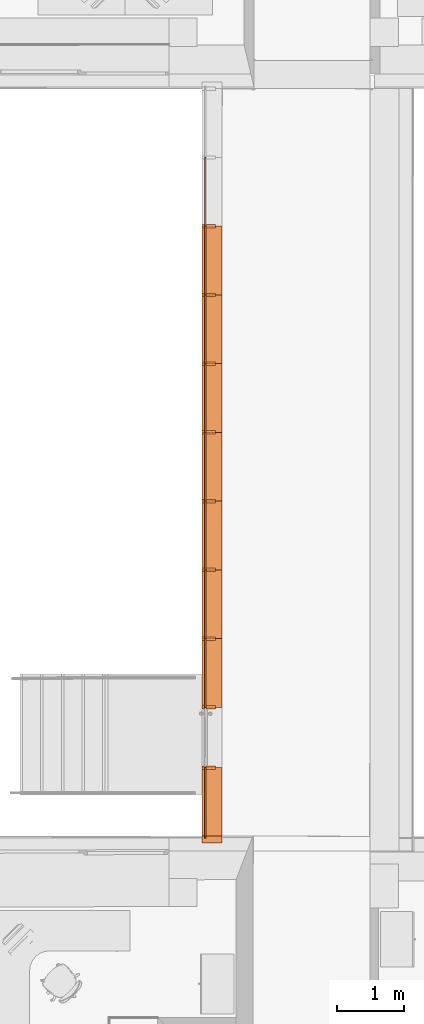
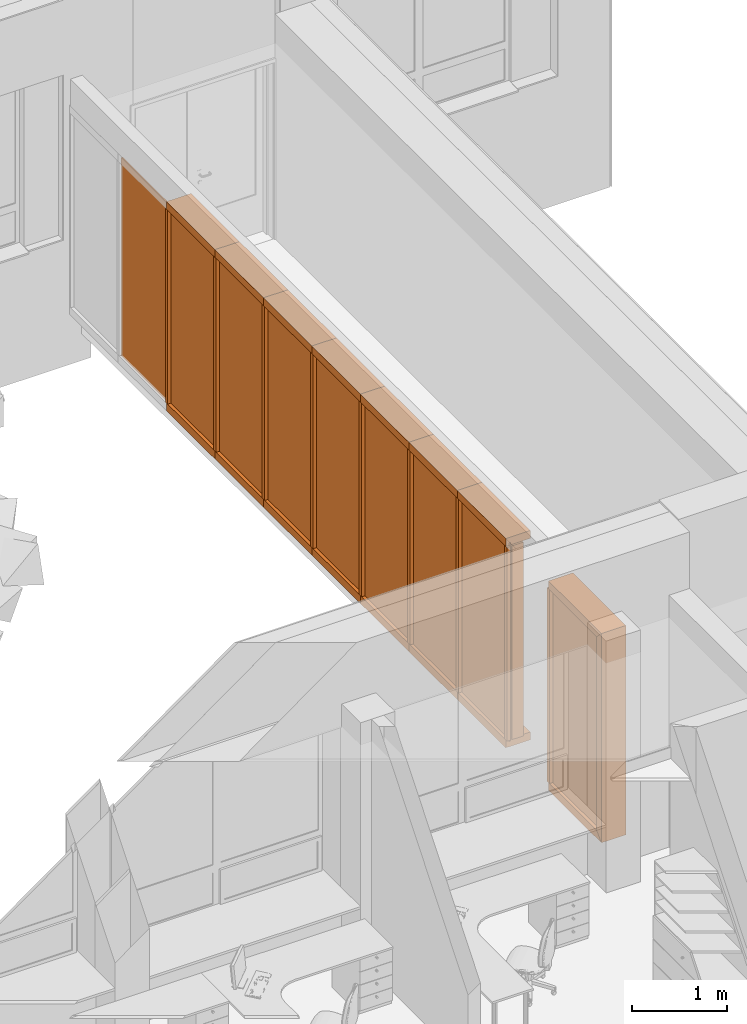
# One storey, part 189 of 194: 35 proxies, 1 element without a shape of its own.
"""IFC2X3 building model written with IfcOpenShell, lengths in millimetres."""

from ifc_helpers import new_model, entity, si_unit, converted_unit, derived_unit, money_unit, direction, frame, origin_with_axes, place, context, subcontext, project, spatial, polyline, outline, extrude, clip, halfspace, material, material_list, type_object, element, aggregate, save


model = new_model("IFC2X3")

# Units and contexts
model_context = context("Model", 3, precision=1e-05, world=origin_with_axes(), true_north=direction((0.0, 1.0)))
body_context = subcontext(model_context, "Body", "Model", "MODEL_VIEW")
ifc_project = project(units=[si_unit("LENGTHUNIT", "METRE", prefix="MILLI"), si_unit("AREAUNIT", "SQUARE_METRE"), si_unit("VOLUMEUNIT", "CUBIC_METRE"), converted_unit("PLANEANGLEUNIT", "DEGREE", entity("IfcPlaneAngleMeasure", 0.0174532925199), si_unit("PLANEANGLEUNIT", "RADIAN"), dimensions=[0, 0, 0, 0, 0, 0, 0]), si_unit("SOLIDANGLEUNIT", "STERADIAN"), money_unit("EUR"), converted_unit("TIMEUNIT", "Year", entity("IfcTimeMeasure", 31556926.0), si_unit("TIMEUNIT", "SECOND"), dimensions=[0, 0, 1, 0, 0, 0, 0]), si_unit("MASSUNIT", "GRAM", prefix="KILO"), si_unit("THERMODYNAMICTEMPERATUREUNIT", "DEGREE_CELSIUS"), si_unit("LUMINOUSINTENSITYUNIT", "LUMEN"), si_unit("ENERGYUNIT", "JOULE", prefix="MEGA"), derived_unit("THERMALCONDUCTANCEUNIT", [(si_unit("POWERUNIT", "WATT"), 1), (si_unit("LENGTHUNIT", "METRE"), -1), (si_unit("THERMODYNAMICTEMPERATUREUNIT", "KELVIN"), -1)]), derived_unit("SPECIFICHEATCAPACITYUNIT", [(si_unit("ENERGYUNIT", "JOULE"), 1), (si_unit("MASSUNIT", "GRAM", prefix="KILO"), -1), (si_unit("THERMODYNAMICTEMPERATUREUNIT", "KELVIN"), -1)]), derived_unit("MASSDENSITYUNIT", [(si_unit("MASSUNIT", "GRAM", prefix="KILO"), 1), (si_unit("VOLUMEUNIT", "CUBIC_METRE"), -1)])], contexts=[model_context])

# Site, building, storey
site_placement = place(None, origin_with_axes())
site = spatial("IfcSite", under=ifc_project, at=site_placement, Name="Site", CompositionType="ELEMENT")
building_placement = place(site_placement, origin_with_axes())
building = spatial("IfcBuilding", under=site, at=building_placement, Name="Building", CompositionType="ELEMENT")
storey_placement = place(building_placement, frame((0.0, 0.0, 3000.0), z_axis=(0.0, 0.0, 1.0), x_axis=(1.0, 0.0, 0.0)))
storey = spatial("IfcBuildingStorey", under=building, at=storey_placement, Name="2 KORRUS", CompositionType="ELEMENT", Elevation=3000.0)

# Curtain wall, proxies
curtain_wall_type = type_object("IfcCurtainWallType", Name="KS-1", PredefinedType="NOTDEFINED")
curtain_wall_placement = place(storey_placement, frame((37274.747914, 58173.7882895, -0.000166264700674), z_axis=(0.0, 0.0, 1.0), x_axis=(1.0, 0.0, 0.0)))
curtain_wall = element("IfcCurtainWall", 1, at=curtain_wall_placement, inside=storey, type_object=curtain_wall_type, Name="KS")
ifc_material_1 = material(Name="Klaas (1)")
building_element_proxy_type_1 = type_object("IfcBuildingElementProxyType", Name="Panel-Main-401", PredefinedType="NOTDEFINED")
proxy_1_placement = place(curtain_wall_placement, frame((0.0, -8200.0, 1250.00017528), z_axis=(0.0, 0.0, 1.0), x_axis=(0.0, -1.0, 0.0)))
proxy_1 = element("IfcBuildingElementProxy", 2, at=proxy_1_placement, type_object=building_element_proxy_type_1, material=ifc_material_1, Name="Klaas (1);  Objekti nimi: Built-in CW Panel", context=body_context, shape_type="SweptSolid", body=[
    extrude(outline(polyline([(-512.500017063, -1280.00017528), (512.499994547, -1280.00017528), (512.499994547, -1250.0001807), (517.5, -1250.0001807), (517.5, 1250.0001807), (512.499994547, 1250.0001807), (512.499994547, 1280.00017528), (-512.500017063, 1280.00017528), (-512.500017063, 1250.0001807), (-517.499984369, 1250.0001807), (-517.499984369, -1250.0001807), (-512.500017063, -1250.0001807), (-512.500017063, -1280.00017528)])), frame((0.0, -9.99999999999, 0.0), z_axis=(0.0, 1.0, 0.0), x_axis=(1.0, 0.0, 0.0)), (0.0, 0.0, 1.0), 20.0),
])
building_element_proxy_type_2 = type_object("IfcBuildingElementProxyType", Name="Panel-Main-402", PredefinedType="NOTDEFINED")
proxy_2_placement = place(curtain_wall_placement, frame((0.0, -7175.0, 1250.00017528), z_axis=(0.0, 0.0, 1.0), x_axis=(0.0, -1.0, 0.0)))
proxy_2 = element("IfcBuildingElementProxy", 3, at=proxy_2_placement, type_object=building_element_proxy_type_2, material=ifc_material_1, Name="Klaas (1);  Objekti nimi: Built-in CW Panel", context=body_context, shape_type="SweptSolid", body=[
    extrude(outline(polyline([(-512.500017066, -1280.00017528), (512.499994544, -1280.00017528), (512.499994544, -1250.0001807), (517.499999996, -1250.0001807), (517.499999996, 1250.0001807), (512.499994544, 1250.0001807), (512.499994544, 1280.00017528), (-512.500017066, 1280.00017528), (-512.500017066, 1250.0001807), (-517.499984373, 1250.0001807), (-517.499984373, -1250.0001807), (-512.500017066, -1250.0001807), (-512.500017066, -1280.00017528)])), frame((0.0, -9.99999999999, 0.0), z_axis=(0.0, 1.0, 0.0), x_axis=(1.0, 0.0, 0.0)), (0.0, 0.0, 1.0), 20.0),
])
building_element_proxy_type_3 = type_object("IfcBuildingElementProxyType", Name="Panel-Main-403", PredefinedType="NOTDEFINED")
proxy_3_placement = place(curtain_wall_placement, frame((0.0, -6150.0, 1250.00017528), z_axis=(0.0, 0.0, 1.0), x_axis=(0.0, -1.0, 0.0)))
proxy_3 = element("IfcBuildingElementProxy", 4, at=proxy_3_placement, type_object=building_element_proxy_type_3, material=ifc_material_1, Name="Klaas (1);  Objekti nimi: Built-in CW Panel", context=body_context, shape_type="SweptSolid", body=[
    extrude(outline(polyline([(-512.500017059, -1280.00017528), (512.499994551, -1280.00017528), (512.499994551, -1250.0001807), (517.500000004, -1250.0001807), (517.500000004, 1250.0001807), (512.499994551, 1250.0001807), (512.499994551, 1280.00017528), (-512.500017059, 1280.00017528), (-512.500017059, 1250.0001807), (-517.499984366, 1250.0001807), (-517.499984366, -1250.0001807), (-512.500017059, -1250.0001807), (-512.500017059, -1280.00017528)])), frame((0.0, -9.99999999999, 0.0), z_axis=(0.0, 1.0, 0.0), x_axis=(1.0, 0.0, 0.0)), (0.0, 0.0, 1.0), 20.0),
])
building_element_proxy_type_4 = type_object("IfcBuildingElementProxyType", Name="Panel-Main-404", PredefinedType="NOTDEFINED")
proxy_4_placement = place(curtain_wall_placement, frame((0.0, -5125.0, 1250.00017528), z_axis=(0.0, 0.0, 1.0), x_axis=(0.0, -1.0, 0.0)))
proxy_4 = element("IfcBuildingElementProxy", 5, at=proxy_4_placement, type_object=building_element_proxy_type_4, material=ifc_material_1, Name="Klaas (1);  Objekti nimi: Built-in CW Panel", context=body_context, shape_type="SweptSolid", body=[
    extrude(outline(polyline([(-512.500017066, -1280.00017528), (512.499994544, -1280.00017528), (512.499994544, -1250.0001807), (517.499999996, -1250.0001807), (517.499999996, 1250.0001807), (512.499994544, 1250.0001807), (512.499994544, 1280.00017528), (-512.500017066, 1280.00017528), (-512.500017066, 1250.0001807), (-517.499984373, 1250.0001807), (-517.499984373, -1250.0001807), (-512.500017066, -1250.0001807), (-512.500017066, -1280.00017528)])), frame((0.0, -9.99999999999, 0.0), z_axis=(0.0, 1.0, 0.0), x_axis=(1.0, 0.0, 0.0)), (0.0, 0.0, 1.0), 20.0),
])
building_element_proxy_type_5 = type_object("IfcBuildingElementProxyType", Name="Panel-Main-405", PredefinedType="NOTDEFINED")
proxy_5_placement = place(curtain_wall_placement, frame((0.0, -4100.0, 1250.00017528), z_axis=(0.0, 0.0, 1.0), x_axis=(0.0, -1.0, 0.0)))
proxy_5 = element("IfcBuildingElementProxy", 6, at=proxy_5_placement, type_object=building_element_proxy_type_5, material=ifc_material_1, Name="Klaas (1);  Objekti nimi: Built-in CW Panel", context=body_context, shape_type="SweptSolid", body=[
    extrude(outline(polyline([(-512.500017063, -1280.00017528), (512.499994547, -1280.00017528), (512.499994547, -1250.0001807), (517.5, -1250.0001807), (517.5, 1250.0001807), (512.499994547, 1250.0001807), (512.499994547, 1280.00017528), (-512.500017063, 1280.00017528), (-512.500017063, 1250.0001807), (-517.499984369, 1250.0001807), (-517.499984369, -1250.0001807), (-512.500017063, -1250.0001807), (-512.500017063, -1280.00017528)])), frame((0.0, -9.99999999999, 0.0), z_axis=(0.0, 1.0, 0.0), x_axis=(1.0, 0.0, 0.0)), (0.0, 0.0, 1.0), 20.0),
])
building_element_proxy_type_6 = type_object("IfcBuildingElementProxyType", Name="Panel-Main-406", PredefinedType="NOTDEFINED")
proxy_6_placement = place(curtain_wall_placement, frame((0.0, -3075.0, 1250.00017528), z_axis=(0.0, 0.0, 1.0), x_axis=(0.0, -1.0, 0.0)))
proxy_6 = element("IfcBuildingElementProxy", 7, at=proxy_6_placement, type_object=building_element_proxy_type_6, material=ifc_material_1, Name="Klaas (1);  Objekti nimi: Built-in CW Panel", context=body_context, shape_type="SweptSolid", body=[
    extrude(outline(polyline([(-512.500017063, -1280.00017528), (512.499994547, -1280.00017528), (512.499994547, -1250.0001807), (517.5, -1250.0001807), (517.5, 1250.0001807), (512.499994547, 1250.0001807), (512.499994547, 1280.00017528), (-512.500017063, 1280.00017528), (-512.500017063, 1250.0001807), (-517.499984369, 1250.0001807), (-517.499984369, -1250.0001807), (-512.500017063, -1250.0001807), (-512.500017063, -1280.00017528)])), frame((0.0, -9.99999999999, 0.0), z_axis=(0.0, 1.0, 0.0), x_axis=(1.0, 0.0, 0.0)), (0.0, 0.0, 1.0), 20.0),
])
building_element_proxy_type_7 = type_object("IfcBuildingElementProxyType", Name="Panel-Main-407", PredefinedType="NOTDEFINED")
proxy_7_placement = place(curtain_wall_placement, frame((0.0, -2050.0, 1250.00017528), z_axis=(0.0, 0.0, 1.0), x_axis=(0.0, -1.0, 0.0)))
proxy_7 = element("IfcBuildingElementProxy", 8, at=proxy_7_placement, type_object=building_element_proxy_type_7, material=ifc_material_1, Name="Klaas (1);  Objekti nimi: Built-in CW Panel", context=body_context, shape_type="SweptSolid", body=[
    extrude(outline(polyline([(-512.500017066, -1280.00017528), (512.499994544, -1280.00017528), (512.499994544, -1250.0001807), (517.499999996, -1250.0001807), (517.499999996, 1250.0001807), (512.499994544, 1250.0001807), (512.499994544, 1280.00017528), (-512.500017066, 1280.00017528), (-512.500017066, 1250.0001807), (-517.499984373, 1250.0001807), (-517.499984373, -1250.0001807), (-512.500017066, -1250.0001807), (-512.500017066, -1280.00017528)])), frame((0.0, -9.99999999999, 0.0), z_axis=(0.0, 1.0, 0.0), x_axis=(1.0, 0.0, 0.0)), (0.0, 0.0, 1.0), 20.0),
])
building_element_proxy_type_8 = type_object("IfcBuildingElementProxyType", Name="Panel-Main-408", PredefinedType="NOTDEFINED")
proxy_8_placement = place(curtain_wall_placement, frame((0.0, -1025.0, 1250.00017528), z_axis=(0.0, 0.0, 1.0), x_axis=(0.0, -1.0, 0.0)))
proxy_8 = element("IfcBuildingElementProxy", 9, at=proxy_8_placement, type_object=building_element_proxy_type_8, material=ifc_material_1, Name="Klaas (1);  Objekti nimi: Built-in CW Panel", context=body_context, shape_type="SweptSolid", body=[
    extrude(outline(polyline([(-512.500017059, -1280.00017528), (512.499994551, -1280.00017528), (512.499994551, -1250.0001807), (517.500000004, -1250.0001807), (517.500000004, 1250.0001807), (512.499994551, 1250.0001807), (512.499994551, 1280.00017528), (-512.500017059, 1280.00017528), (-512.500017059, 1250.0001807), (-517.499984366, 1250.0001807), (-517.499984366, -1250.0001807), (-512.500017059, -1250.0001807), (-512.500017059, -1280.00017528)])), frame((0.0, -9.99999999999, 0.0), z_axis=(0.0, 1.0, 0.0), x_axis=(1.0, 0.0, 0.0)), (0.0, 0.0, 1.0), 20.0),
])
building_element_proxy_type_9 = type_object("IfcBuildingElementProxyType", Name="Panel-Main-409", PredefinedType="NOTDEFINED")
proxy_9_placement = place(curtain_wall_placement, frame((0.0, -10122.9794885, 1250.00017528), z_axis=(0.0, 0.0, 1.0), x_axis=(0.0, -1.0, 0.0)))
proxy_9 = element("IfcBuildingElementProxy", 10, at=proxy_9_placement, type_object=building_element_proxy_type_9, material=ifc_material_1, Name="Klaas (1);  Objekti nimi: Built-in CW Panel", context=body_context, shape_type="SweptSolid", body=[
    extrude(outline(polyline([(-510.479451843, -1280.00017528), (510.479493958, -1280.00017528), (510.479493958, -1250.0001807), (540.479488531, -1250.0001807), (540.479488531, 1250.0001807), (510.479493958, 1250.0001807), (510.479493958, 1280.00017528), (-510.479489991, 1280.00017528), (-510.479451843, 1250.0001807), (-515.479457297, 1250.0001807), (-515.479457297, -1250.0001807), (-510.479451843, -1250.0001807), (-510.479451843, -1280.00017528)])), frame((0.0, -9.99999999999, 0.0), z_axis=(0.0, 1.0, 0.0), x_axis=(1.0, 0.0, 0.0)), (0.0, 0.0, 1.0), 20.0),
])
ifc_material_2 = material(Name="Alumiinium (1)")
ifc_material_list = material_list([ifc_material_2, ifc_material_2])
building_element_proxy_type_10 = type_object("IfcBuildingElementProxyType", Name="Frame-Mll-552", PredefinedType="NOTDEFINED")
proxy_10_placement = place(curtain_wall_placement, frame((0.0, -9612.5, 0.0), z_axis=(0.0, 0.0, 1.0), x_axis=(0.0, -1.0, 0.0)))
proxy_10 = element("IfcBuildingElementProxy", 11, at=proxy_10_placement, type_object=building_element_proxy_type_10, material=ifc_material_list, Name="Alumiinium (1);  Objekti nimi: Frame 22", context=body_context, shape_type="SweptSolid", body=[
    extrude(outline(polyline([(9.99999999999, -24.9999999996), (150.0, -24.9999999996), (150.0, 24.9999999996), (9.99999999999, 24.9999999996), (9.99999999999, -24.9999999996)])), frame((0.0, 0.0, 0.0), z_axis=(0.0, 0.0, 1.0), x_axis=(0.0, 1.0, 0.0)), (0.0, 0.0, 1.0), 2500.00035055),
    extrude(outline(polyline([(-9.99999999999, 24.9999999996), (-50.0, 24.9999999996), (-50.0, -24.9999999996), (-9.99999999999, -24.9999999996), (-9.99999999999, 24.9999999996)])), frame((0.0, 0.0, 0.0), z_axis=(0.0, 0.0, 1.0), x_axis=(0.0, 1.0, 0.0)), (0.0, 0.0, 1.0), 2500.00035055),
])
building_element_proxy_type_11 = type_object("IfcBuildingElementProxyType", Name="Frame-Bnd-282", PredefinedType="NOTDEFINED")
proxy_11_placement = place(curtain_wall_placement, frame((0.0, -8712.5, 0.0), z_axis=(0.0, 1.0, 0.0), x_axis=(0.0, 0.0, 1.0)))
proxy_11 = element("IfcBuildingElementProxy", 12, at=proxy_11_placement, type_object=building_element_proxy_type_11, material=ifc_material_2, Name="Alumiinium (1);  Objekti nimi: Built-in Frame", context=body_context, shape_type="SweptSolid", body=[
    extrude(outline(polyline([(9.99999999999, 30.0), (9.99999999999, 0.0), (250.0, 0.0), (250.0, 100.0), (-50.0, 100.0), (-50.0, 0.0), (-9.99999999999, 0.0), (-9.99999999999, 30.0), (9.99999999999, 30.0)])), frame((0.0, 0.0, 0.0), z_axis=(0.0, 0.0, 1.0), x_axis=(0.0, 1.0, 0.0)), (0.0, 0.0, 1.0), 1025.0),
])
building_element_proxy_type_12 = type_object("IfcBuildingElementProxyType", Name="Frame-Mll-553", PredefinedType="NOTDEFINED")
proxy_12_placement = place(curtain_wall_placement, frame((0.0, -8712.5, 0.0), z_axis=(0.0, 0.0, 1.0), x_axis=(0.0, -1.0, 0.0)))
proxy_12 = element("IfcBuildingElementProxy", 13, at=proxy_12_placement, type_object=building_element_proxy_type_12, material=ifc_material_list, Name="Alumiinium (1);  Objekti nimi: Frame 22", context=body_context, shape_type="SweptSolid", body=[
    extrude(outline(polyline([(9.99999999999, -24.9999999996), (150.0, -24.9999999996), (150.0, 24.9999999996), (9.99999999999, 24.9999999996), (9.99999999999, -24.9999999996)])), frame((0.0, 0.0, 0.0), z_axis=(0.0, 0.0, 1.0), x_axis=(0.0, 1.0, 0.0)), (0.0, 0.0, 1.0), 2500.00035055),
    extrude(outline(polyline([(-9.99999999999, 24.9999999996), (-50.0, 24.9999999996), (-50.0, -24.9999999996), (-9.99999999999, -24.9999999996), (-9.99999999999, 24.9999999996)])), frame((0.0, 0.0, 0.0), z_axis=(0.0, 0.0, 1.0), x_axis=(0.0, 1.0, 0.0)), (0.0, 0.0, 1.0), 2500.00035055),
])
building_element_proxy_type_13 = type_object("IfcBuildingElementProxyType", Name="Frame-Bnd-283", PredefinedType="NOTDEFINED")
proxy_13_placement = place(curtain_wall_placement, frame((0.0, -7687.5, 0.0), z_axis=(0.0, 1.0, 0.0), x_axis=(0.0, 0.0, 1.0)))
proxy_13 = element("IfcBuildingElementProxy", 14, at=proxy_13_placement, type_object=building_element_proxy_type_13, material=ifc_material_2, Name="Alumiinium (1);  Objekti nimi: Built-in Frame", context=body_context, shape_type="SweptSolid", body=[
    extrude(outline(polyline([(9.99999999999, 30.0), (9.99999999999, 0.0), (250.0, 0.0), (250.0, 100.0), (-50.0, 100.0), (-50.0, 0.0), (-9.99999999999, 0.0), (-9.99999999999, 30.0), (9.99999999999, 30.0)])), frame((0.0, 0.0, 0.0), z_axis=(0.0, 0.0, 1.0), x_axis=(0.0, 1.0, 0.0)), (0.0, 0.0, 1.0), 1025.0),
])
building_element_proxy_type_14 = type_object("IfcBuildingElementProxyType", Name="Frame-Mll-554", PredefinedType="NOTDEFINED")
proxy_14_placement = place(curtain_wall_placement, frame((0.0, -7687.5, 0.0), z_axis=(0.0, 0.0, 1.0), x_axis=(0.0, -1.0, 0.0)))
proxy_14 = element("IfcBuildingElementProxy", 15, at=proxy_14_placement, type_object=building_element_proxy_type_14, material=ifc_material_list, Name="Alumiinium (1);  Objekti nimi: Frame 22", context=body_context, shape_type="SweptSolid", body=[
    extrude(outline(polyline([(9.99999999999, -24.9999999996), (150.0, -24.9999999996), (150.0, 24.9999999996), (9.99999999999, 24.9999999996), (9.99999999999, -24.9999999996)])), frame((0.0, 0.0, 0.0), z_axis=(0.0, 0.0, 1.0), x_axis=(0.0, 1.0, 0.0)), (0.0, 0.0, 1.0), 2500.00035055),
    extrude(outline(polyline([(-9.99999999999, 24.9999999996), (-50.0, 24.9999999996), (-50.0, -24.9999999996), (-9.99999999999, -24.9999999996), (-9.99999999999, 24.9999999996)])), frame((0.0, 0.0, 0.0), z_axis=(0.0, 0.0, 1.0), x_axis=(0.0, 1.0, 0.0)), (0.0, 0.0, 1.0), 2500.00035055),
])
building_element_proxy_type_15 = type_object("IfcBuildingElementProxyType", Name="Frame-Bnd-284", PredefinedType="NOTDEFINED")
proxy_15_placement = place(curtain_wall_placement, frame((0.0, -6662.50000001, 0.0), z_axis=(0.0, 1.0, 0.0), x_axis=(0.0, 0.0, 1.0)))
proxy_15 = element("IfcBuildingElementProxy", 16, at=proxy_15_placement, type_object=building_element_proxy_type_15, material=ifc_material_2, Name="Alumiinium (1);  Objekti nimi: Built-in Frame", context=body_context, shape_type="SweptSolid", body=[
    extrude(outline(polyline([(9.99999999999, 30.0), (9.99999999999, 0.0), (250.0, 0.0), (250.0, 100.0), (-50.0, 100.0), (-50.0, 0.0), (-9.99999999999, 0.0), (-9.99999999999, 30.0), (9.99999999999, 30.0)])), frame((0.0, 0.0, 0.0), z_axis=(0.0, 0.0, 1.0), x_axis=(0.0, 1.0, 0.0)), (0.0, 0.0, 1.0), 1025.00000001),
])
building_element_proxy_type_16 = type_object("IfcBuildingElementProxyType", Name="Frame-Mll-555", PredefinedType="NOTDEFINED")
proxy_16_placement = place(curtain_wall_placement, frame((0.0, -6662.50000001, 0.0), z_axis=(0.0, 0.0, 1.0), x_axis=(0.0, -1.0, 0.0)))
proxy_16 = element("IfcBuildingElementProxy", 17, at=proxy_16_placement, type_object=building_element_proxy_type_16, material=ifc_material_list, Name="Alumiinium (1);  Objekti nimi: Frame 22", context=body_context, shape_type="SweptSolid", body=[
    extrude(outline(polyline([(9.99999999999, -24.9999999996), (150.0, -24.9999999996), (150.0, 24.9999999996), (9.99999999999, 24.9999999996), (9.99999999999, -24.9999999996)])), frame((0.0, 0.0, 0.0), z_axis=(0.0, 0.0, 1.0), x_axis=(0.0, 1.0, 0.0)), (0.0, 0.0, 1.0), 2500.00035055),
    extrude(outline(polyline([(-9.99999999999, 24.9999999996), (-50.0, 24.9999999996), (-50.0, -24.9999999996), (-9.99999999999, -24.9999999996), (-9.99999999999, 24.9999999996)])), frame((0.0, 0.0, 0.0), z_axis=(0.0, 0.0, 1.0), x_axis=(0.0, 1.0, 0.0)), (0.0, 0.0, 1.0), 2500.00035055),
])
building_element_proxy_type_17 = type_object("IfcBuildingElementProxyType", Name="Frame-Bnd-285", PredefinedType="NOTDEFINED")
proxy_17_placement = place(curtain_wall_placement, frame((0.0, -5637.5, 0.0), z_axis=(0.0, 1.0, 0.0), x_axis=(0.0, 0.0, 1.0)))
proxy_17 = element("IfcBuildingElementProxy", 18, at=proxy_17_placement, type_object=building_element_proxy_type_17, material=ifc_material_2, Name="Alumiinium (1);  Objekti nimi: Built-in Frame", context=body_context, shape_type="SweptSolid", body=[
    extrude(outline(polyline([(9.99999999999, 30.0), (9.99999999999, 0.0), (250.0, 0.0), (250.0, 100.0), (-50.0, 100.0), (-50.0, 0.0), (-9.99999999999, 0.0), (-9.99999999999, 30.0), (9.99999999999, 30.0)])), frame((0.0, 0.0, 0.0), z_axis=(0.0, 0.0, 1.0), x_axis=(0.0, 1.0, 0.0)), (0.0, 0.0, 1.0), 1025.0),
])
building_element_proxy_type_18 = type_object("IfcBuildingElementProxyType", Name="Frame-Mll-556", PredefinedType="NOTDEFINED")
proxy_18_placement = place(curtain_wall_placement, frame((0.0, -5637.5, 0.0), z_axis=(0.0, 0.0, 1.0), x_axis=(0.0, -1.0, 0.0)))
proxy_18 = element("IfcBuildingElementProxy", 19, at=proxy_18_placement, type_object=building_element_proxy_type_18, material=ifc_material_list, Name="Alumiinium (1);  Objekti nimi: Frame 22", context=body_context, shape_type="SweptSolid", body=[
    extrude(outline(polyline([(9.99999999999, -24.9999999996), (150.0, -24.9999999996), (150.0, 24.9999999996), (9.99999999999, 24.9999999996), (9.99999999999, -24.9999999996)])), frame((0.0, 0.0, 0.0), z_axis=(0.0, 0.0, 1.0), x_axis=(0.0, 1.0, 0.0)), (0.0, 0.0, 1.0), 2500.00035055),
    extrude(outline(polyline([(-9.99999999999, 24.9999999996), (-50.0, 24.9999999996), (-50.0, -24.9999999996), (-9.99999999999, -24.9999999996), (-9.99999999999, 24.9999999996)])), frame((0.0, 0.0, 0.0), z_axis=(0.0, 0.0, 1.0), x_axis=(0.0, 1.0, 0.0)), (0.0, 0.0, 1.0), 2500.00035055),
])
building_element_proxy_type_19 = type_object("IfcBuildingElementProxyType", Name="Frame-Bnd-286", PredefinedType="NOTDEFINED")
proxy_19_placement = place(curtain_wall_placement, frame((0.0, -4612.5, 0.0), z_axis=(0.0, 1.0, 0.0), x_axis=(0.0, 0.0, 1.0)))
proxy_19 = element("IfcBuildingElementProxy", 20, at=proxy_19_placement, type_object=building_element_proxy_type_19, material=ifc_material_2, Name="Alumiinium (1);  Objekti nimi: Built-in Frame", context=body_context, shape_type="SweptSolid", body=[
    extrude(outline(polyline([(9.99999999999, 30.0), (9.99999999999, 0.0), (250.0, 0.0), (250.0, 100.0), (-50.0, 100.0), (-50.0, 0.0), (-9.99999999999, 0.0), (-9.99999999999, 30.0), (9.99999999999, 30.0)])), frame((0.0, 0.0, 0.0), z_axis=(0.0, 0.0, 1.0), x_axis=(0.0, 1.0, 0.0)), (0.0, 0.0, 1.0), 1025.0),
])
building_element_proxy_type_20 = type_object("IfcBuildingElementProxyType", Name="Frame-Mll-557", PredefinedType="NOTDEFINED")
proxy_20_placement = place(curtain_wall_placement, frame((0.0, -4612.5, 0.0), z_axis=(0.0, 0.0, 1.0), x_axis=(0.0, -1.0, 0.0)))
proxy_20 = element("IfcBuildingElementProxy", 21, at=proxy_20_placement, type_object=building_element_proxy_type_20, material=ifc_material_list, Name="Alumiinium (1);  Objekti nimi: Frame 22", context=body_context, shape_type="SweptSolid", body=[
    extrude(outline(polyline([(9.99999999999, -24.9999999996), (150.0, -24.9999999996), (150.0, 24.9999999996), (9.99999999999, 24.9999999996), (9.99999999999, -24.9999999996)])), frame((0.0, 0.0, 0.0), z_axis=(0.0, 0.0, 1.0), x_axis=(0.0, 1.0, 0.0)), (0.0, 0.0, 1.0), 2500.00035055),
    extrude(outline(polyline([(-9.99999999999, 24.9999999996), (-50.0, 24.9999999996), (-50.0, -24.9999999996), (-9.99999999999, -24.9999999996), (-9.99999999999, 24.9999999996)])), frame((0.0, 0.0, 0.0), z_axis=(0.0, 0.0, 1.0), x_axis=(0.0, 1.0, 0.0)), (0.0, 0.0, 1.0), 2500.00035055),
])
building_element_proxy_type_21 = type_object("IfcBuildingElementProxyType", Name="Frame-Bnd-287", PredefinedType="NOTDEFINED")
proxy_21_placement = place(curtain_wall_placement, frame((0.0, -3587.5, 0.0), z_axis=(0.0, 1.0, 0.0), x_axis=(0.0, 0.0, 1.0)))
proxy_21 = element("IfcBuildingElementProxy", 22, at=proxy_21_placement, type_object=building_element_proxy_type_21, material=ifc_material_2, Name="Alumiinium (1);  Objekti nimi: Built-in Frame", context=body_context, shape_type="SweptSolid", body=[
    extrude(outline(polyline([(9.99999999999, 30.0), (9.99999999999, 0.0), (250.0, 0.0), (250.0, 100.0), (-50.0, 100.0), (-50.0, 0.0), (-9.99999999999, 0.0), (-9.99999999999, 30.0), (9.99999999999, 30.0)])), frame((0.0, 0.0, 0.0), z_axis=(0.0, 0.0, 1.0), x_axis=(0.0, 1.0, 0.0)), (0.0, 0.0, 1.0), 1025.0),
])
building_element_proxy_type_22 = type_object("IfcBuildingElementProxyType", Name="Frame-Mll-558", PredefinedType="NOTDEFINED")
proxy_22_placement = place(curtain_wall_placement, frame((0.0, -3587.5, 0.0), z_axis=(0.0, 0.0, 1.0), x_axis=(0.0, -1.0, 0.0)))
proxy_22 = element("IfcBuildingElementProxy", 23, at=proxy_22_placement, type_object=building_element_proxy_type_22, material=ifc_material_list, Name="Alumiinium (1);  Objekti nimi: Frame 22", context=body_context, shape_type="SweptSolid", body=[
    extrude(outline(polyline([(9.99999999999, -24.9999999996), (150.0, -24.9999999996), (150.0, 24.9999999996), (9.99999999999, 24.9999999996), (9.99999999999, -24.9999999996)])), frame((0.0, 0.0, 0.0), z_axis=(0.0, 0.0, 1.0), x_axis=(0.0, 1.0, 0.0)), (0.0, 0.0, 1.0), 2500.00035055),
    extrude(outline(polyline([(-9.99999999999, 24.9999999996), (-50.0, 24.9999999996), (-50.0, -24.9999999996), (-9.99999999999, -24.9999999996), (-9.99999999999, 24.9999999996)])), frame((0.0, 0.0, 0.0), z_axis=(0.0, 0.0, 1.0), x_axis=(0.0, 1.0, 0.0)), (0.0, 0.0, 1.0), 2500.00035055),
])
building_element_proxy_type_23 = type_object("IfcBuildingElementProxyType", Name="Frame-Bnd-288", PredefinedType="NOTDEFINED")
proxy_23_placement = place(curtain_wall_placement, frame((0.0, -2562.5, 0.0), z_axis=(0.0, 1.0, 0.0), x_axis=(0.0, 0.0, 1.0)))
proxy_23 = element("IfcBuildingElementProxy", 24, at=proxy_23_placement, type_object=building_element_proxy_type_23, material=ifc_material_2, Name="Alumiinium (1);  Objekti nimi: Built-in Frame", context=body_context, shape_type="SweptSolid", body=[
    extrude(outline(polyline([(9.99999999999, 30.0), (9.99999999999, 0.0), (250.0, 0.0), (250.0, 100.0), (-50.0, 100.0), (-50.0, 0.0), (-9.99999999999, 0.0), (-9.99999999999, 30.0), (9.99999999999, 30.0)])), frame((0.0, 0.0, 0.0), z_axis=(0.0, 0.0, 1.0), x_axis=(0.0, 1.0, 0.0)), (0.0, 0.0, 1.0), 1025.0),
])
building_element_proxy_type_24 = type_object("IfcBuildingElementProxyType", Name="Frame-Mll-559", PredefinedType="NOTDEFINED")
proxy_24_placement = place(curtain_wall_placement, frame((0.0, -2562.5, 0.0), z_axis=(0.0, 0.0, 1.0), x_axis=(0.0, -1.0, 0.0)))
proxy_24 = element("IfcBuildingElementProxy", 25, at=proxy_24_placement, type_object=building_element_proxy_type_24, material=ifc_material_list, Name="Alumiinium (1);  Objekti nimi: Frame 22", context=body_context, shape_type="SweptSolid", body=[
    extrude(outline(polyline([(9.99999999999, -24.9999999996), (150.0, -24.9999999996), (150.0, 24.9999999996), (9.99999999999, 24.9999999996), (9.99999999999, -24.9999999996)])), frame((0.0, 0.0, 0.0), z_axis=(0.0, 0.0, 1.0), x_axis=(0.0, 1.0, 0.0)), (0.0, 0.0, 1.0), 2500.00035055),
    extrude(outline(polyline([(-9.99999999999, 24.9999999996), (-50.0, 24.9999999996), (-50.0, -24.9999999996), (-9.99999999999, -24.9999999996), (-9.99999999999, 24.9999999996)])), frame((0.0, 0.0, 0.0), z_axis=(0.0, 0.0, 1.0), x_axis=(0.0, 1.0, 0.0)), (0.0, 0.0, 1.0), 2500.00035055),
])
building_element_proxy_type_25 = type_object("IfcBuildingElementProxyType", Name="Frame-Mll-560", PredefinedType="NOTDEFINED")
proxy_25_placement = place(curtain_wall_placement, frame((0.0, -1537.50000001, 0.0), z_axis=(0.0, 0.0, 1.0), x_axis=(0.0, -1.0, 0.0)))
proxy_25 = element("IfcBuildingElementProxy", 26, at=proxy_25_placement, type_object=building_element_proxy_type_25, material=ifc_material_list, Name="Alumiinium (1);  Objekti nimi: Frame 22", context=body_context, shape_type="SweptSolid", body=[
    extrude(outline(polyline([(9.99999999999, -24.9999999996), (150.0, -24.9999999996), (150.0, 24.9999999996), (9.99999999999, 24.9999999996), (9.99999999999, -24.9999999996)])), frame((0.0, 0.0, 0.0), z_axis=(0.0, 0.0, 1.0), x_axis=(0.0, 1.0, 0.0)), (0.0, 0.0, 1.0), 2500.00035055),
    extrude(outline(polyline([(-9.99999999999, 24.9999999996), (-50.0, 24.9999999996), (-50.0, -24.9999999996), (-9.99999999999, -24.9999999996), (-9.99999999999, 24.9999999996)])), frame((0.0, 0.0, 0.0), z_axis=(0.0, 0.0, 1.0), x_axis=(0.0, 1.0, 0.0)), (0.0, 0.0, 1.0), 2500.00035055),
])
building_element_proxy_type_26 = type_object("IfcBuildingElementProxyType", Name="Frame-Bnd-278", PredefinedType="NOTDEFINED")
proxy_26_placement = place(curtain_wall_placement, frame((0.0, -10633.4589771, 2500.00035055), z_axis=(0.0, 1.0, 0.0), x_axis=(0.0, 0.0, 1.0)))
proxy_26 = element("IfcBuildingElementProxy", 27, at=proxy_26_placement, type_object=building_element_proxy_type_26, material=ifc_material_2, Name="Alumiinium (1);  Objekti nimi: Built-in Frame", context=body_context, shape_type="Clipping", body=[
    clip(extrude(outline(polyline([(9.99999999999, -30.0), (-9.99999999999, -30.0), (-9.99999999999, 0.0), (-50.0, 0.0), (-50.0, -100.0), (250.0, -100.0), (250.0, 0.0), (9.99999999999, 0.0), (9.99999999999, -30.0)])), frame((0.0, 0.0, -100.0), z_axis=(0.0, 0.0, 1.0), x_axis=(0.0, 1.0, 0.0)), (0.0, 0.0, 1.0), 1120.95897706), halfspace(frame((1.85793456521e-10, 0.0, 1.85793456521e-10), z_axis=(0.707106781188, 0.0, 0.707106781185), x_axis=(0.0, -1.0, 0.0)), True)),
])
building_element_proxy_type_27 = type_object("IfcBuildingElementProxyType", Name="Frame-Bnd-297", PredefinedType="NOTDEFINED")
proxy_27_placement = place(curtain_wall_placement, frame((0.0, -3587.5, 2500.00035055), z_axis=(0.0, 1.0, 0.0), x_axis=(0.0, 0.0, 1.0)))
proxy_27 = element("IfcBuildingElementProxy", 28, at=proxy_27_placement, type_object=building_element_proxy_type_27, material=ifc_material_2, Name="Alumiinium (1);  Objekti nimi: Built-in Frame", context=body_context, shape_type="SweptSolid", body=[
    extrude(outline(polyline([(9.99999999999, -30.0), (-9.99999999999, -30.0), (-9.99999999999, 0.0), (-50.0, 0.0), (-50.0, -100.0), (250.0, -100.0), (250.0, 0.0), (9.99999999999, 0.0), (9.99999999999, -30.0)])), frame((0.0, 0.0, 0.0), z_axis=(0.0, 0.0, 1.0), x_axis=(0.0, 1.0, 0.0)), (0.0, 0.0, 1.0), 1025.0),
])
building_element_proxy_type_28 = type_object("IfcBuildingElementProxyType", Name="Frame-Bnd-280", PredefinedType="NOTDEFINED")
proxy_28_placement = place(curtain_wall_placement, frame((0.0, -10633.4589771, 0.0), z_axis=(0.0, 1.0, 0.0), x_axis=(0.0, 0.0, 1.0)))
proxy_28 = element("IfcBuildingElementProxy", 29, at=proxy_28_placement, type_object=building_element_proxy_type_28, material=ifc_material_2, Name="Alumiinium (1);  Objekti nimi: Built-in Frame", context=body_context, shape_type="Clipping", body=[
    clip(extrude(outline(polyline([(9.99999999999, 30.0), (9.99999999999, 0.0), (250.0, 0.0), (250.0, 100.0), (-50.0, 100.0), (-50.0, 0.0), (-9.99999999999, 0.0), (-9.99999999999, 30.0), (9.99999999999, 30.0)])), frame((0.0, 0.0, -100.0), z_axis=(0.0, 0.0, 1.0), x_axis=(0.0, 1.0, 0.0)), (0.0, 0.0, 1.0), 1120.95897706), halfspace(frame((-1.85496610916e-10, 0.0, 1.85496610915e-10), z_axis=(-0.707106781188, 0.0, 0.707106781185), x_axis=(0.0, -1.0, 0.0)), True)),
])
building_element_proxy_type_29 = type_object("IfcBuildingElementProxyType", Name="Frame-Bnd-299", PredefinedType="NOTDEFINED")
proxy_29_placement = place(curtain_wall_placement, frame((0.0, -5637.5, 2500.00035055), z_axis=(0.0, 1.0, 0.0), x_axis=(0.0, 0.0, 1.0)))
proxy_29 = element("IfcBuildingElementProxy", 30, at=proxy_29_placement, type_object=building_element_proxy_type_29, material=ifc_material_2, Name="Alumiinium (1);  Objekti nimi: Built-in Frame", context=body_context, shape_type="SweptSolid", body=[
    extrude(outline(polyline([(9.99999999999, -30.0), (-9.99999999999, -30.0), (-9.99999999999, 0.0), (-50.0, 0.0), (-50.0, -100.0), (250.0, -100.0), (250.0, 0.0), (9.99999999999, 0.0), (9.99999999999, -30.0)])), frame((0.0, 0.0, 0.0), z_axis=(0.0, 0.0, 1.0), x_axis=(0.0, 1.0, 0.0)), (0.0, 0.0, 1.0), 1025.0),
])
building_element_proxy_type_30 = type_object("IfcBuildingElementProxyType", Name="Frame-Bnd-302", PredefinedType="NOTDEFINED")
proxy_30_placement = place(curtain_wall_placement, frame((0.0, -8712.5, 2500.00035055), z_axis=(0.0, 1.0, 0.0), x_axis=(0.0, 0.0, 1.0)))
proxy_30 = element("IfcBuildingElementProxy", 31, at=proxy_30_placement, type_object=building_element_proxy_type_30, material=ifc_material_2, Name="Alumiinium (1);  Objekti nimi: Built-in Frame", context=body_context, shape_type="SweptSolid", body=[
    extrude(outline(polyline([(9.99999999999, -30.0), (-9.99999999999, -30.0), (-9.99999999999, 0.0), (-50.0, 0.0), (-50.0, -100.0), (250.0, -100.0), (250.0, 0.0), (9.99999999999, 0.0), (9.99999999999, -30.0)])), frame((0.0, 0.0, 0.0), z_axis=(0.0, 0.0, 1.0), x_axis=(0.0, 1.0, 0.0)), (0.0, 0.0, 1.0), 1025.0),
])
building_element_proxy_type_31 = type_object("IfcBuildingElementProxyType", Name="Frame-Bnd-301", PredefinedType="NOTDEFINED")
proxy_31_placement = place(curtain_wall_placement, frame((0.0, -7687.5, 2500.00035055), z_axis=(0.0, 1.0, 0.0), x_axis=(0.0, 0.0, 1.0)))
proxy_31 = element("IfcBuildingElementProxy", 32, at=proxy_31_placement, type_object=building_element_proxy_type_31, material=ifc_material_2, Name="Alumiinium (1);  Objekti nimi: Built-in Frame", context=body_context, shape_type="SweptSolid", body=[
    extrude(outline(polyline([(9.99999999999, -30.0), (-9.99999999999, -30.0), (-9.99999999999, 0.0), (-50.0, 0.0), (-50.0, -100.0), (250.0, -100.0), (250.0, 0.0), (9.99999999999, 0.0), (9.99999999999, -30.0)])), frame((0.0, 0.0, 0.0), z_axis=(0.0, 0.0, 1.0), x_axis=(0.0, 1.0, 0.0)), (0.0, 0.0, 1.0), 1025.0),
])
building_element_proxy_type_32 = type_object("IfcBuildingElementProxyType", Name="Frame-Bnd-296", PredefinedType="NOTDEFINED")
proxy_32_placement = place(curtain_wall_placement, frame((0.0, -2562.5, 2500.00035055), z_axis=(0.0, 1.0, 0.0), x_axis=(0.0, 0.0, 1.0)))
proxy_32 = element("IfcBuildingElementProxy", 33, at=proxy_32_placement, type_object=building_element_proxy_type_32, material=ifc_material_2, Name="Alumiinium (1);  Objekti nimi: Built-in Frame", context=body_context, shape_type="SweptSolid", body=[
    extrude(outline(polyline([(9.99999999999, -30.0), (-9.99999999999, -30.0), (-9.99999999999, 0.0), (-50.0, 0.0), (-50.0, -100.0), (250.0, -100.0), (250.0, 0.0), (9.99999999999, 0.0), (9.99999999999, -30.0)])), frame((0.0, 0.0, 0.0), z_axis=(0.0, 0.0, 1.0), x_axis=(0.0, 1.0, 0.0)), (0.0, 0.0, 1.0), 1025.0),
])
building_element_proxy_type_33 = type_object("IfcBuildingElementProxyType", Name="Frame-Bnd-279", PredefinedType="NOTDEFINED")
proxy_33_placement = place(curtain_wall_placement, frame((0.0, -10633.4589771, 2500.00035055), z_axis=(0.0, 0.0, -1.0), x_axis=(0.0, 1.0, 0.0)))
proxy_33 = element("IfcBuildingElementProxy", 34, at=proxy_33_placement, type_object=building_element_proxy_type_33, material=ifc_material_2, Name="Alumiinium (1);  Objekti nimi: Built-in Frame", context=body_context, shape_type="Clipping", body=[
    clip(clip(extrude(outline(polyline([(9.99999999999, 29.9999999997), (9.99999999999, 0.0), (250.0, 0.0), (250.0, 100.0), (-50.0, 100.0), (-50.0, 0.0), (-9.99999999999, 0.0), (-9.99999999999, 29.9999999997), (9.99999999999, 29.9999999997)])), frame((0.0, 0.0, -100.0), z_axis=(0.0, 0.0, 1.0), x_axis=(0.0, 1.0, 0.0)), (0.0, 0.0, 1.0), 2700.00035055), halfspace(frame((1250.00017528, 0.0, 1250.00017528), z_axis=(-0.707106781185, 0.0, -0.707106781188), x_axis=(0.0, 1.0, 0.0)), True)), halfspace(frame((1.86109928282e-10, 0.0, -1.86109928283e-10), z_axis=(-0.707106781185, 0.0, 0.707106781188), x_axis=(0.0, -1.0, 0.0)), True)),
])
building_element_proxy_type_34 = type_object("IfcBuildingElementProxyType", Name="Frame-Bnd-300", PredefinedType="NOTDEFINED")
proxy_34_placement = place(curtain_wall_placement, frame((0.0, -6662.50000001, 2500.00035055), z_axis=(0.0, 1.0, 0.0), x_axis=(0.0, 0.0, 1.0)))
proxy_34 = element("IfcBuildingElementProxy", 35, at=proxy_34_placement, type_object=building_element_proxy_type_34, material=ifc_material_2, Name="Alumiinium (1);  Objekti nimi: Built-in Frame", context=body_context, shape_type="SweptSolid", body=[
    extrude(outline(polyline([(9.99999999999, -30.0), (-9.99999999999, -30.0), (-9.99999999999, 0.0), (-50.0, 0.0), (-50.0, -100.0), (250.0, -100.0), (250.0, 0.0), (9.99999999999, 0.0), (9.99999999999, -30.0)])), frame((0.0, 0.0, 0.0), z_axis=(0.0, 0.0, 1.0), x_axis=(0.0, 1.0, 0.0)), (0.0, 0.0, 1.0), 1025.00000001),
])
building_element_proxy_type_35 = type_object("IfcBuildingElementProxyType", Name="Frame-Bnd-298", PredefinedType="NOTDEFINED")
proxy_35_placement = place(curtain_wall_placement, frame((0.0, -4612.5, 2500.00035055), z_axis=(0.0, 1.0, 0.0), x_axis=(0.0, 0.0, 1.0)))
proxy_35 = element("IfcBuildingElementProxy", 36, at=proxy_35_placement, type_object=building_element_proxy_type_35, material=ifc_material_2, Name="Alumiinium (1);  Objekti nimi: Built-in Frame", context=body_context, shape_type="SweptSolid", body=[
    extrude(outline(polyline([(9.99999999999, -30.0), (-9.99999999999, -30.0), (-9.99999999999, 0.0), (-50.0, 0.0), (-50.0, -100.0), (250.0, -100.0), (250.0, 0.0), (9.99999999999, 0.0), (9.99999999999, -30.0)])), frame((0.0, 0.0, 0.0), z_axis=(0.0, 0.0, 1.0), x_axis=(0.0, 1.0, 0.0)), (0.0, 0.0, 1.0), 1025.0),
])
aggregate(curtain_wall, [proxy_1, proxy_2, proxy_3, proxy_4, proxy_5, proxy_6, proxy_7, proxy_8, proxy_9, proxy_10, proxy_11, proxy_12, proxy_13, proxy_14, proxy_15, proxy_16, proxy_17, proxy_18, proxy_19, proxy_20, proxy_21, proxy_22, proxy_23, proxy_24, proxy_25, proxy_26, proxy_27, proxy_28, proxy_29, proxy_30, proxy_31, proxy_32, proxy_33, proxy_34, proxy_35])

save(model, "model.ifc")
